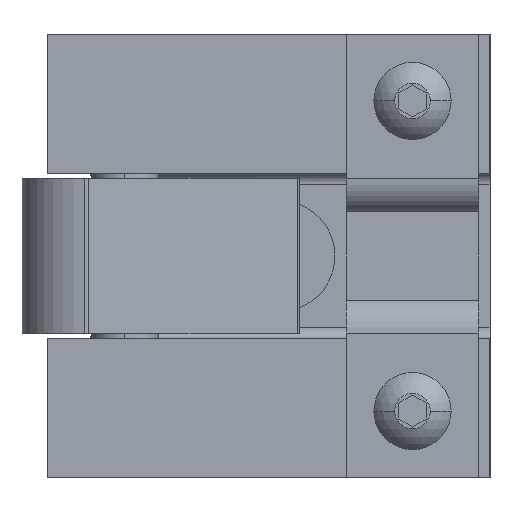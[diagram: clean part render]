
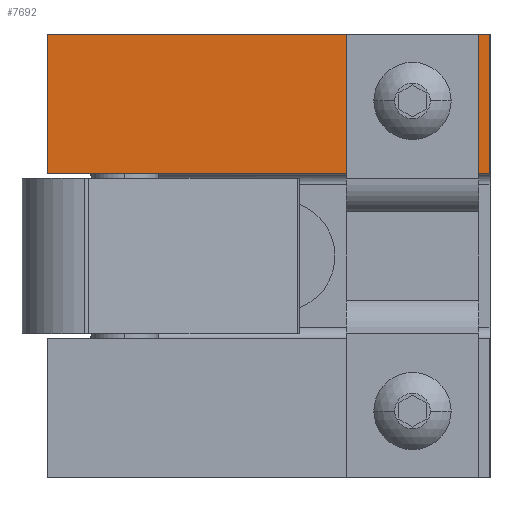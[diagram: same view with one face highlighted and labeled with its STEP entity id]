
A CAD part, left-side view. The second image highlights one B-rep face of the part: STEP entity #7692.
In plain terms, the highlighted planar face has unit normal (-1, 0, 0).
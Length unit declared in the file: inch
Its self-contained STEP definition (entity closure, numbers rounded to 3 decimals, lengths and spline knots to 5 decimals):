
#7151 = EDGE_LOOP ( 'NONE', ( #7152, #7158 ) ) ;
#7152 = ORIENTED_EDGE ( 'NONE', *, *, #7153, .F. ) ;
#7153 = EDGE_CURVE ( 'NONE', #7154, #7155, #24310, .T. ) ;
#7154 = VERTEX_POINT ( 'NONE', #24306 ) ;
#7155 = VERTEX_POINT ( 'NONE', #24360 ) ;
#7158 = ORIENTED_EDGE ( 'NONE', *, *, #7159, .F. ) ;
#7159 = EDGE_CURVE ( 'NONE', #7155, #7154, #24359, .T. ) ;
#7160 = EDGE_LOOP ( 'NONE', ( #7161, #7164, #7167, #7169 ) ) ;
#7161 = ORIENTED_EDGE ( 'NONE', *, *, #7162, .F. ) ;
#7162 = EDGE_CURVE ( 'NONE', #7163, #7606, #24354, .T. ) ;
#7163 = VERTEX_POINT ( 'NONE', #24350 ) ;
#7164 = ORIENTED_EDGE ( 'NONE', *, *, #7165, .T. ) ;
#7165 = EDGE_CURVE ( 'NONE', #7163, #7166, #24349, .T. ) ;
#7166 = VERTEX_POINT ( 'NONE', #24408 ) ;
#7167 = ORIENTED_EDGE ( 'NONE', *, *, #7168, .F. ) ;
#7168 = EDGE_CURVE ( 'NONE', #7688, #7166, #24406, .T. ) ;
#7169 = ORIENTED_EDGE ( 'NONE', *, *, #7687, .F. ) ;
#7606 = VERTEX_POINT ( 'NONE', #28838 ) ;
#7687 = EDGE_CURVE ( 'NONE', #7606, #7688, #29287, .T. ) ;
#7688 = VERTEX_POINT ( 'NONE', #29283 ) ;
#7692 = ADVANCED_FACE ( 'NONE', ( #29277, #29276 ), #29314, .T. ) ;
#24306 = CARTESIAN_POINT ( 'NONE',  ( -1.81648, -0.74289, 0.98779 ) ) ;
#24307 = DIRECTION ( 'NONE',  ( 0., 0., 1. ) ) ;
#24308 = DIRECTION ( 'NONE',  ( -1., 0., 0. ) ) ;
#24309 = AXIS2_PLACEMENT_3D ( 'NONE', #24312, #24308, #24307 ) ;
#24310 = CIRCLE ( 'NONE', #24309, 0.125 ) ;
#24312 = CARTESIAN_POINT ( 'NONE',  ( -1.81648, -0.74289, 0.86279 ) ) ;
#24346 = DIRECTION ( 'NONE',  ( 0., 0., 1. ) ) ;
#24347 = VECTOR ( 'NONE', #24346, 39.37008 ) ;
#24348 = CARTESIAN_POINT ( 'NONE',  ( -1.81648, -1.18039, -1.26221 ) ) ;
#24349 = LINE ( 'NONE', #24348, #24347 ) ;
#24350 = CARTESIAN_POINT ( 'NONE',  ( -1.81648, -1.18039, 0.45279 ) ) ;
#24351 = DIRECTION ( 'NONE',  ( 0., 1., 0. ) ) ;
#24352 = VECTOR ( 'NONE', #24351, 39.37008 ) ;
#24353 = CARTESIAN_POINT ( 'NONE',  ( -1.81648, -1.18039, 0.45279 ) ) ;
#24354 = LINE ( 'NONE', #24353, #24352 ) ;
#24355 = DIRECTION ( 'NONE',  ( 0., 0., 1. ) ) ;
#24356 = DIRECTION ( 'NONE',  ( -1., 0., 0. ) ) ;
#24357 = CARTESIAN_POINT ( 'NONE',  ( -1.81648, -0.74289, 0.86279 ) ) ;
#24358 = AXIS2_PLACEMENT_3D ( 'NONE', #24357, #24356, #24355 ) ;
#24359 = CIRCLE ( 'NONE', #24358, 0.125 ) ;
#24360 = CARTESIAN_POINT ( 'NONE',  ( -1.81648, -0.74289, 0.73779 ) ) ;
#24403 = DIRECTION ( 'NONE',  ( 0., -1., 0. ) ) ;
#24404 = VECTOR ( 'NONE', #24403, 39.37008 ) ;
#24405 = CARTESIAN_POINT ( 'NONE',  ( -1.81648, -1.18039, 1.23779 ) ) ;
#24406 = LINE ( 'NONE', #24405, #24404 ) ;
#24408 = CARTESIAN_POINT ( 'NONE',  ( -1.81648, -1.18039, 1.23779 ) ) ;
#28838 = CARTESIAN_POINT ( 'NONE',  ( -1.81648, 1.31961, 0.45279 ) ) ;
#29276 = FACE_OUTER_BOUND ( 'NONE', #7160, .T. ) ;
#29277 = FACE_BOUND ( 'NONE', #7151, .T. ) ;
#29283 = CARTESIAN_POINT ( 'NONE',  ( -1.81648, 1.31961, 1.23779 ) ) ;
#29284 = DIRECTION ( 'NONE',  ( 0., 0., 1. ) ) ;
#29285 = VECTOR ( 'NONE', #29284, 39.37008 ) ;
#29286 = CARTESIAN_POINT ( 'NONE',  ( -1.81648, 1.31961, -1.26221 ) ) ;
#29287 = LINE ( 'NONE', #29286, #29285 ) ;
#29309 = DIRECTION ( 'NONE',  ( 0., 0., 1. ) ) ;
#29310 = DIRECTION ( 'NONE',  ( -1., 0., 0. ) ) ;
#29311 = CARTESIAN_POINT ( 'NONE',  ( -1.81648, -1.18039, -1.26221 ) ) ;
#29312 = AXIS2_PLACEMENT_3D ( 'NONE', #29311, #29310, #29309 ) ;
#29314 = PLANE ( 'NONE',  #29312 ) ;
